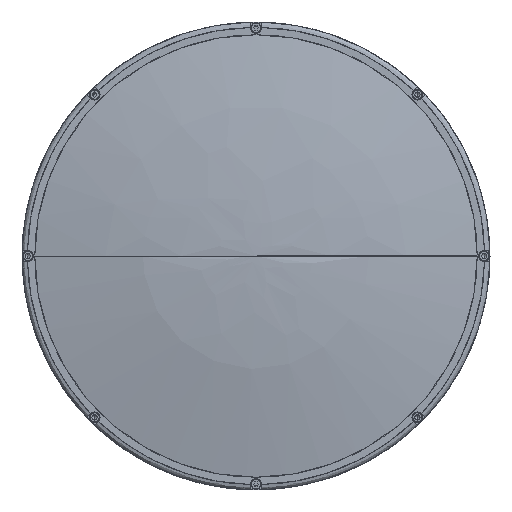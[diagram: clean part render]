
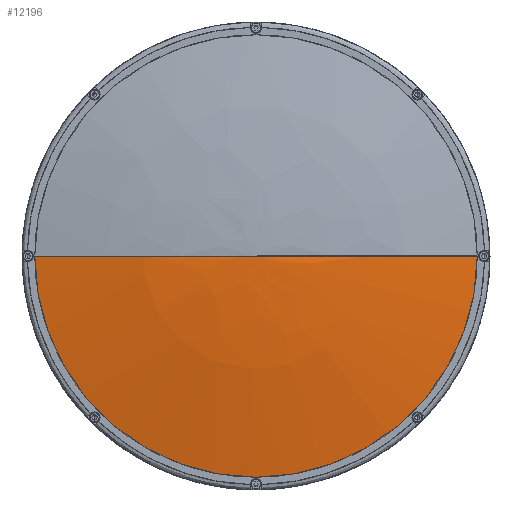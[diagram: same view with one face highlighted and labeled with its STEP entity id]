
A CAD part, left-side view. The second image highlights one B-rep face of the part: STEP entity #12196.
In plain terms, the highlighted face is a revolution surface.
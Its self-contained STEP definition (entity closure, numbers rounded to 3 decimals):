
#12196 = ADVANCED_FACE('',(#12197),#12215,.T.);
#12197 = FACE_BOUND('',#12198,.T.);
#12198 = EDGE_LOOP('',(#12199,#12229,#12248,#12267));
#12199 = ORIENTED_EDGE('',*,*,#12200,.F.);
#12200 = EDGE_CURVE('',#12201,#12203,#12205,.T.);
#12201 = VERTEX_POINT('',#12202);
#12202 = CARTESIAN_POINT('',(-560.373,0.,
    0.));
#12203 = VERTEX_POINT('',#12204);
#12204 = CARTESIAN_POINT('',(-547.362,124.9,
    0.));
#12205 = SURFACE_CURVE('',#12206,(#12214),.PCURVE_S1.);
#12206 = ( BOUNDED_CURVE() B_SPLINE_CURVE(6,(#12207,#12208,#12209,#12210
    ,#12211,#12212,#12213),.UNSPECIFIED.,.F.,.F.) 
B_SPLINE_CURVE_WITH_KNOTS((7,7),(0.,1.),.PIECEWISE_BEZIER_KNOTS.) CURVE(
) GEOMETRIC_REPRESENTATION_ITEM() RATIONAL_B_SPLINE_CURVE((
    1.001,1.,1.,1.,
1.,1.,1.001)) REPRESENTATION_ITEM('') 
  );
#12207 = CARTESIAN_POINT('',(-560.373,0.,
    0.));
#12208 = CARTESIAN_POINT('',(-560.373,20.974,
    0.));
#12209 = CARTESIAN_POINT('',(-559.502,41.94,
    0.));
#12210 = CARTESIAN_POINT('',(-557.761,62.856,
    0.));
#12211 = CARTESIAN_POINT('',(-555.154,83.681,
    0.));
#12212 = CARTESIAN_POINT('',(-551.685,104.376,
    0.));
#12213 = CARTESIAN_POINT('',(-547.362,124.9,
    0.));
#12214 = PCURVE('',#12215,#12224);
#12215 = SURFACE_OF_REVOLUTION('',#12216,#12221);
#12216 = CIRCLE('',#12217,606.);
#12217 = AXIS2_PLACEMENT_3D('',#12218,#12219,#12220);
#12218 = CARTESIAN_POINT('',(45.627,0.,0.));
#12219 = DIRECTION('',(-0.,0.,1.));
#12220 = DIRECTION('',(1.,0.,0.));
#12221 = AXIS1_PLACEMENT('',#12222,#12223);
#12222 = CARTESIAN_POINT('',(45.627,0.,0.));
#12223 = DIRECTION('',(1.,0.,0.));
#12224 = DEFINITIONAL_REPRESENTATION('',(#12225),#12228);
#12225 = B_SPLINE_CURVE_WITH_KNOTS('',1,(#12226,#12227),.UNSPECIFIED.,
  .F.,.F.,(2,2),(0.,1.),.PIECEWISE_BEZIER_KNOTS.);
#12226 = CARTESIAN_POINT('',(6.283,3.142));
#12227 = CARTESIAN_POINT('',(6.283,2.934));
#12228 = ( GEOMETRIC_REPRESENTATION_CONTEXT(2) 
PARAMETRIC_REPRESENTATION_CONTEXT() REPRESENTATION_CONTEXT('',''
  ) );
#12229 = ORIENTED_EDGE('',*,*,#12230,.F.);
#12230 = EDGE_CURVE('',#12231,#12201,#12233,.T.);
#12231 = VERTEX_POINT('',#12232);
#12232 = CARTESIAN_POINT('',(-560.373,0.,
    0.));
#12233 = SURFACE_CURVE('',#12234,(#12242),.PCURVE_S1.);
#12234 = ( BOUNDED_CURVE() B_SPLINE_CURVE(6,(#12235,#12236,#12237,#12238
    ,#12239,#12240,#12241),.UNSPECIFIED.,.F.,.F.) 
B_SPLINE_CURVE_WITH_KNOTS((7,7),(0.,1.),.PIECEWISE_BEZIER_KNOTS.) CURVE(
) GEOMETRIC_REPRESENTATION_ITEM() RATIONAL_B_SPLINE_CURVE((
    1.133,1.036,0.992,0.976,
0.992,1.036,1.133)) REPRESENTATION_ITEM('') 
  );
#12235 = CARTESIAN_POINT('',(-560.373,0.,
    0.));
#12236 = CARTESIAN_POINT('',(-560.373,0.,
    0.));
#12237 = CARTESIAN_POINT('',(-560.373,0.,
    0.));
#12238 = CARTESIAN_POINT('',(-560.373,0.,
    0.));
#12239 = CARTESIAN_POINT('',(-560.373,0.,
    0.));
#12240 = CARTESIAN_POINT('',(-560.373,0.,
    0.));
#12241 = CARTESIAN_POINT('',(-560.373,0.,
    0.));
#12242 = PCURVE('',#12215,#12243);
#12243 = DEFINITIONAL_REPRESENTATION('',(#12244),#12247);
#12244 = B_SPLINE_CURVE_WITH_KNOTS('',1,(#12245,#12246),.UNSPECIFIED.,
  .F.,.F.,(2,2),(0.,1.),.PIECEWISE_BEZIER_KNOTS.);
#12245 = CARTESIAN_POINT('',(3.142,3.142));
#12246 = CARTESIAN_POINT('',(6.283,3.142));
#12247 = ( GEOMETRIC_REPRESENTATION_CONTEXT(2) 
PARAMETRIC_REPRESENTATION_CONTEXT() REPRESENTATION_CONTEXT('',''
  ) );
#12248 = ORIENTED_EDGE('',*,*,#12249,.F.);
#12249 = EDGE_CURVE('',#12250,#12231,#12252,.T.);
#12250 = VERTEX_POINT('',#12251);
#12251 = CARTESIAN_POINT('',(-547.362,-124.9,
    0.));
#12252 = SURFACE_CURVE('',#12253,(#12261),.PCURVE_S1.);
#12253 = ( BOUNDED_CURVE() B_SPLINE_CURVE(6,(#12254,#12255,#12256,#12257
    ,#12258,#12259,#12260),.UNSPECIFIED.,.F.,.F.) 
B_SPLINE_CURVE_WITH_KNOTS((7,7),(0.,1.),.PIECEWISE_BEZIER_KNOTS.) CURVE(
) GEOMETRIC_REPRESENTATION_ITEM() RATIONAL_B_SPLINE_CURVE((
    1.001,1.,1.,1.,
1.,1.,1.001)) REPRESENTATION_ITEM('') 
  );
#12254 = CARTESIAN_POINT('',(-547.362,-124.9,
    0.));
#12255 = CARTESIAN_POINT('',(-551.685,-104.376,
    0.));
#12256 = CARTESIAN_POINT('',(-555.154,-83.681,
    0.));
#12257 = CARTESIAN_POINT('',(-557.761,-62.856,
    0.));
#12258 = CARTESIAN_POINT('',(-559.502,-41.94,
    0.));
#12259 = CARTESIAN_POINT('',(-560.373,-20.974,
    0.));
#12260 = CARTESIAN_POINT('',(-560.373,0.,
    0.));
#12261 = PCURVE('',#12215,#12262);
#12262 = DEFINITIONAL_REPRESENTATION('',(#12263),#12266);
#12263 = B_SPLINE_CURVE_WITH_KNOTS('',1,(#12264,#12265),.UNSPECIFIED.,
  .F.,.F.,(2,2),(0.,1.),.PIECEWISE_BEZIER_KNOTS.);
#12264 = CARTESIAN_POINT('',(3.142,2.934));
#12265 = CARTESIAN_POINT('',(3.142,3.142));
#12266 = ( GEOMETRIC_REPRESENTATION_CONTEXT(2) 
PARAMETRIC_REPRESENTATION_CONTEXT() REPRESENTATION_CONTEXT('',''
  ) );
#12267 = ORIENTED_EDGE('',*,*,#12268,.F.);
#12268 = EDGE_CURVE('',#12203,#12250,#12269,.T.);
#12269 = SURFACE_CURVE('',#12270,(#12282),.PCURVE_S1.);
#12270 = B_SPLINE_CURVE_WITH_KNOTS('',10,(#12271,#12272,#12273,#12274,
    #12275,#12276,#12277,#12278,#12279,#12280,#12281),.UNSPECIFIED.,.F.,
  .F.,(11,11),(0.,1.),.PIECEWISE_BEZIER_KNOTS.);
#12271 = CARTESIAN_POINT('',(-547.362,124.9,
    0.));
#12272 = CARTESIAN_POINT('',(-547.362,124.9,
    -39.238));
#12273 = CARTESIAN_POINT('',(-547.362,111.203,
    -78.477));
#12274 = CARTESIAN_POINT('',(-547.362,83.809,
    -112.337));
#12275 = CARTESIAN_POINT('',(-547.362,45.134,
    -135.439));
#12276 = CARTESIAN_POINT('',(-547.362,0.,
    -143.67));
#12277 = CARTESIAN_POINT('',(-547.362,-45.134,
    -135.439));
#12278 = CARTESIAN_POINT('',(-547.362,-83.809,
    -112.337));
#12279 = CARTESIAN_POINT('',(-547.362,-111.203,
    -78.477));
#12280 = CARTESIAN_POINT('',(-547.362,-124.9,
    -39.238));
#12281 = CARTESIAN_POINT('',(-547.362,-124.9,
    0.));
#12282 = PCURVE('',#12215,#12283);
#12283 = DEFINITIONAL_REPRESENTATION('',(#12284),#12287);
#12284 = B_SPLINE_CURVE_WITH_KNOTS('',1,(#12285,#12286),.UNSPECIFIED.,
  .F.,.F.,(2,2),(0.,1.),.PIECEWISE_BEZIER_KNOTS.);
#12285 = CARTESIAN_POINT('',(6.283,2.934));
#12286 = CARTESIAN_POINT('',(3.142,2.934));
#12287 = ( GEOMETRIC_REPRESENTATION_CONTEXT(2) 
PARAMETRIC_REPRESENTATION_CONTEXT() REPRESENTATION_CONTEXT('',''
  ) );
